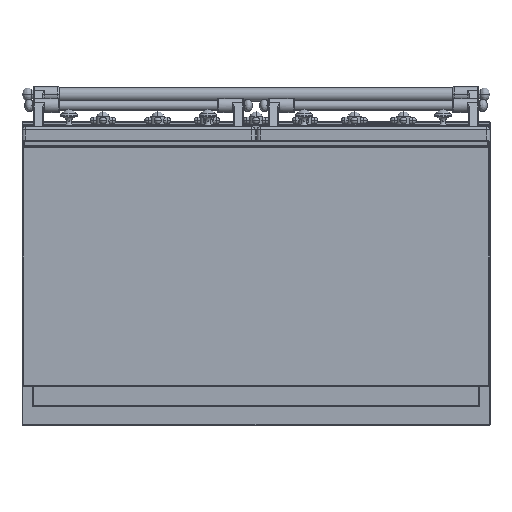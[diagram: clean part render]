
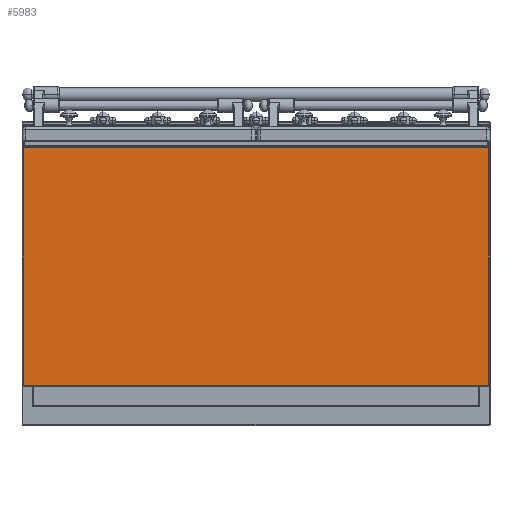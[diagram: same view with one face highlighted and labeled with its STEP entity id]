
A CAD part, front view. The second image highlights one B-rep face of the part: STEP entity #5983.
In plain terms, the highlighted planar face has unit normal (0, -1, 0).
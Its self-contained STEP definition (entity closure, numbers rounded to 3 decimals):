
#5614=DIRECTION('',(0.,0.,-1.));
#5615=VECTOR('',#5614,508.);
#5616=CARTESIAN_POINT('',(497.,0.,254.));
#5617=LINE('',#5616,#5615);
#5618=DIRECTION('',(-1.,0.,0.));
#5619=VECTOR('',#5618,994.);
#5620=CARTESIAN_POINT('',(497.,0.,-254.));
#5621=LINE('',#5620,#5619);
#5622=DIRECTION('',(0.,0.,1.));
#5623=VECTOR('',#5622,508.);
#5624=CARTESIAN_POINT('',(-497.,0.,-254.));
#5625=LINE('',#5624,#5623);
#5626=DIRECTION('',(-1.,0.,0.));
#5627=VECTOR('',#5626,994.);
#5628=CARTESIAN_POINT('',(497.,0.,254.));
#5629=LINE('',#5628,#5627);
#5761=CARTESIAN_POINT('',(497.,0.,254.));
#5762=CARTESIAN_POINT('',(497.,0.,-254.));
#5763=VERTEX_POINT('',#5761);
#5764=VERTEX_POINT('',#5762);
#5773=CARTESIAN_POINT('',(-497.,0.,-254.));
#5774=CARTESIAN_POINT('',(-497.,0.,254.));
#5775=VERTEX_POINT('',#5773);
#5776=VERTEX_POINT('',#5774);
#5971=CARTESIAN_POINT('',(-499.,0.,256.));
#5972=DIRECTION('',(0.,-1.,0.));
#5973=DIRECTION('',(0.,0.,-1.));
#5974=AXIS2_PLACEMENT_3D('',#5971,#5972,#5973);
#5975=PLANE('',#5974);
#5976=ORIENTED_EDGE('',*,*,#5961,.T.);
#5978=ORIENTED_EDGE('',*,*,#5977,.T.);
#5979=ORIENTED_EDGE('',*,*,#5898,.T.);
#5980=ORIENTED_EDGE('',*,*,#5938,.F.);
#5981=EDGE_LOOP('',(#5976,#5978,#5979,#5980));
#5982=FACE_OUTER_BOUND('',#5981,.F.);
#5898=EDGE_CURVE('',#5775,#5776,#5625,.T.);
#5938=EDGE_CURVE('',#5763,#5776,#5629,.T.);
#5961=EDGE_CURVE('',#5763,#5764,#5617,.T.);
#5977=EDGE_CURVE('',#5764,#5775,#5621,.T.);
#5983=ADVANCED_FACE('',(#5982),#5975,.T.);
